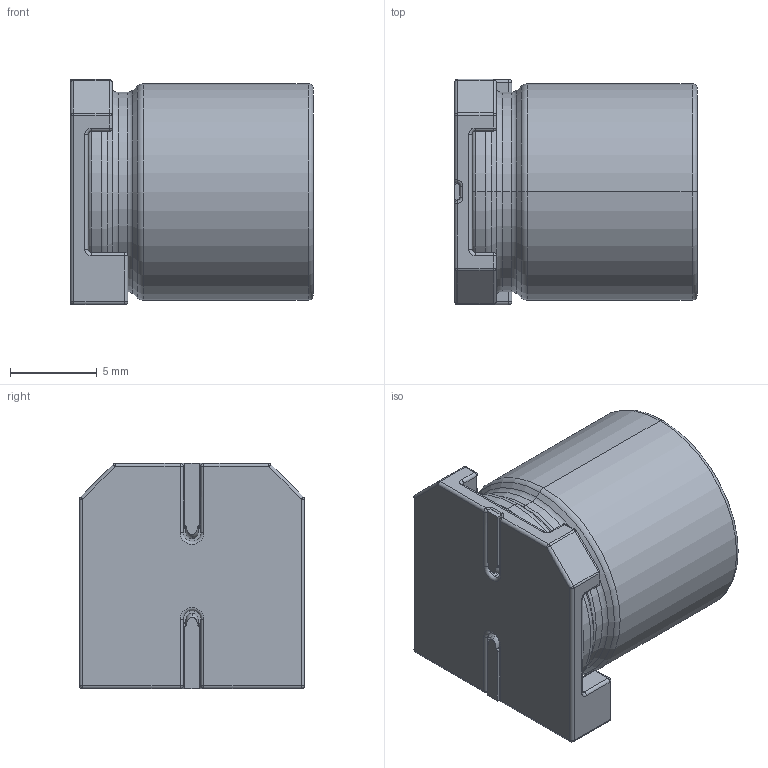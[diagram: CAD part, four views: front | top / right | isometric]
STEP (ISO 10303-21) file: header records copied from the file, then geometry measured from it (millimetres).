
FILE_DESCRIPTION((''),'2;1');
FILE_NAME('LIQUIDSMD125X14_ASM','2020-06-03T',('xy'),(''),'PRO/ENGINEER BY PARAMETRIC TECHNOLOGY CORPORATION, 2009380','PRO/ENGINEER BY PARAMETRIC TECHNOLOGY CORPORATION, 2009380','');
FILE_SCHEMA(('CONFIG_CONTROL_DESIGN'));
Length unit declared in the file: millimetre
Products named in the file (3): LIQUIDSMD125X14; ZB125A; LIQUIDSMD125X14_ASM
Assembly tree (2 placements, depth 2):
  LIQUIDSMD125X14_ASM
    LIQUIDSMD125X14
    ZB125A
Bounding box: 14.01 x 13 x 13 mm (x, y, z)
Volume: 1763.3 mm3; surface area: 1229.7 mm2
Topology: 2 solids, 2 shells, 366 faces, 870 edges, 520 vertices
Faces by surface type: plane 167, cylinder 94, torus 55, sphere 32, bspline 14, cone 4
Entity records: 11095 total; most frequent: CARTESIAN_POINT 2535, DIRECTION 1820, ORIENTED_EDGE 1740, EDGE_CURVE 870, AXIS2_PLACEMENT_3D 642, VECTOR 536, LINE 536, VERTEX_POINT 520
